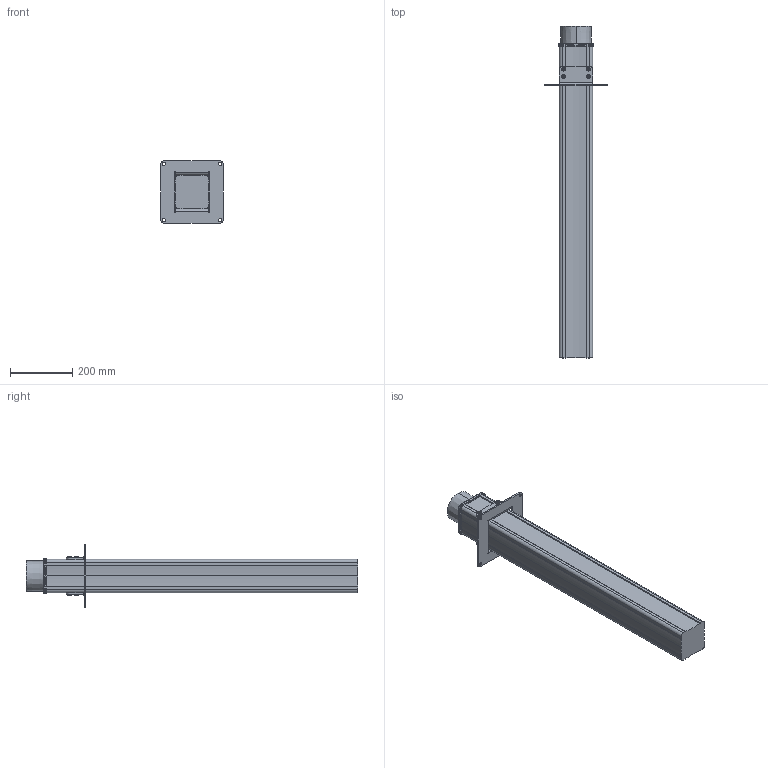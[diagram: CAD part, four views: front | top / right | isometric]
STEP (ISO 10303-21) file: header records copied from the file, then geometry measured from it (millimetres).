
FILE_DESCRIPTION((''),'2;1');
FILE_NAME('G_MTF_75','2015-12-03T',('Tomas Bellgran'),(''),'PRO/ENGINEER BY PARAMETRIC TECHNOLOGY CORPORATION, 2013410','PRO/ENGINEER BY PARAMETRIC TECHNOLOGY CORPORATION, 2013410','');
FILE_SCHEMA(('AUTOMOTIVE_DESIGN { 1 0 10303 214 1 1 1 1 }'));
Length unit declared in the file: millimetre
Products named in the file (5): 100741; 100351; 100810; 102076; G_MTF_75
Assembly tree (11 placements, depth 2):
  G_MTF_75
    100741
    100351
    100810
    102076  x8
Bounding box: 200 x 1066.5 x 200 mm (x, y, z)
Volume: 11761842.4 mm3; surface area: 577662.5 mm2
Topology: 11 solids, 11 shells, 446 faces, 1076 edges, 670 vertices
Faces by surface type: cylinder 142, bspline 102, plane 96, cone 86, sphere 16, torus 4
Entity records: 19702 total; most frequent: CARTESIAN_POINT 9716, ORIENTED_EDGE 1620, DIRECTION 1188, EDGE_CURVE 810, VERTEX_POINT 502, PRESENTATION_STYLE_ASSIGNMENT 483, STYLED_ITEM 483, CURVE_STYLE 482
